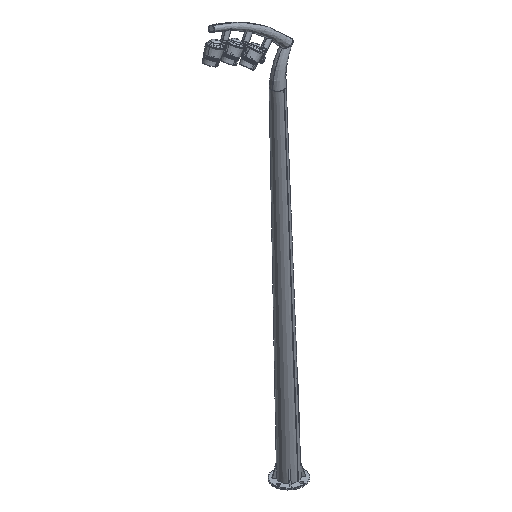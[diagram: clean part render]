
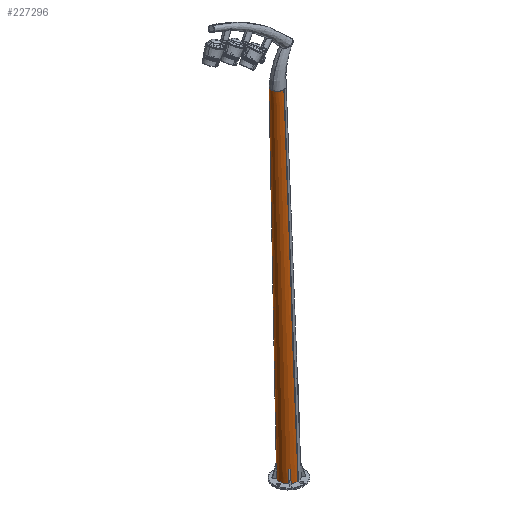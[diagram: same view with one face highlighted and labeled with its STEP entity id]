
A CAD part, isometric view. The second image highlights one B-rep face of the part: STEP entity #227296.
In plain terms, the highlighted conical face has half-angle 0.458 degrees and reference radius 42.621 mm.
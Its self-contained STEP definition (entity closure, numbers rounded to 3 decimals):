
#226904=DIRECTION('',(-0.008,0.,-1.));
#226905=VECTOR('',#226904,1900.061);
#226906=CARTESIAN_POINT('',(50.221,0.,-1222.4));
#226907=LINE('',#226906,#226905);
#226908=CARTESIAN_POINT('',(0.,0.,-3122.4));
#226909=DIRECTION('',(0.,0.,-1.));
#226910=DIRECTION('',(1.,0.,0.));
#226911=AXIS2_PLACEMENT_3D('',#226908,#226909,#226910);
#226913=DIRECTION('',(-0.008,0.,1.));
#226914=VECTOR('',#226913,1900.061);
#226915=CARTESIAN_POINT('',(-35.021,0.,-3122.4));
#226916=LINE('',#226915,#226914);
#226917=CARTESIAN_POINT('',(0.,0.,-1222.4));
#226918=DIRECTION('',(0.,0.,-1.));
#226919=DIRECTION('',(1.,0.,0.));
#226920=AXIS2_PLACEMENT_3D('',#226917,#226918,#226919);
#227236=CARTESIAN_POINT('',(50.221,0.,-1222.4));
#227237=CARTESIAN_POINT('',(-50.221,0.,-1222.4));
#227238=VERTEX_POINT('',#227236);
#227239=VERTEX_POINT('',#227237);
#227240=CARTESIAN_POINT('',(35.021,0.,-3122.4));
#227241=VERTEX_POINT('',#227240);
#227242=CARTESIAN_POINT('',(-35.021,0.,-3122.4));
#227243=VERTEX_POINT('',#227242);
#227281=CARTESIAN_POINT('',(0.,0.,-2172.4));
#227282=DIRECTION('',(0.,0.,1.));
#227283=DIRECTION('',(-1.,0.,0.));
#227284=AXIS2_PLACEMENT_3D('',#227281,#227282,#227283);
#227285=CONICAL_SURFACE('',#227284,42.621,0.458);
#227287=ORIENTED_EDGE('',*,*,#227286,.F.);
#227289=ORIENTED_EDGE('',*,*,#227288,.T.);
#227291=ORIENTED_EDGE('',*,*,#227290,.T.);
#227293=ORIENTED_EDGE('',*,*,#227292,.T.);
#227294=EDGE_LOOP('',(#227287,#227289,#227291,#227293));
#227295=FACE_OUTER_BOUND('',#227294,.F.);
#227296=ADVANCED_FACE('',(#227295),#227285,.T.);
#226912=CIRCLE('',#226911,35.021);
#226921=CIRCLE('',#226920,50.221);
#227286=EDGE_CURVE('',#227238,#227239,#226921,.T.);
#227288=EDGE_CURVE('',#227238,#227241,#226907,.T.);
#227290=EDGE_CURVE('',#227241,#227243,#226912,.T.);
#227292=EDGE_CURVE('',#227243,#227239,#226916,.T.);
